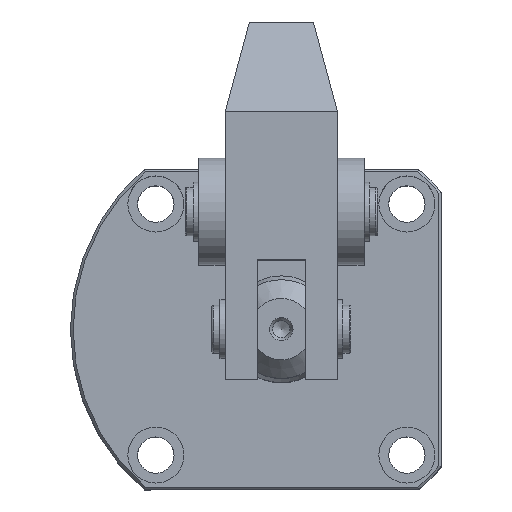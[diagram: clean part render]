
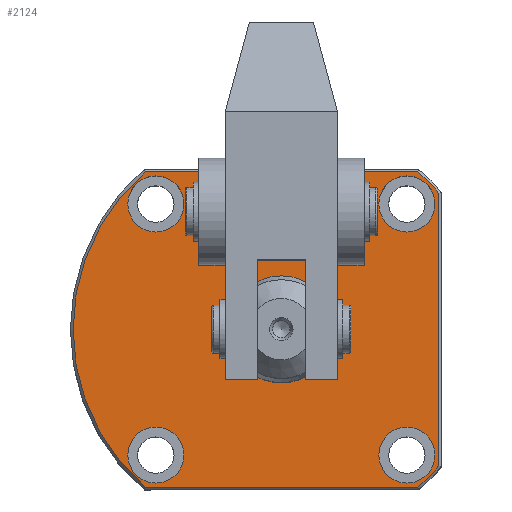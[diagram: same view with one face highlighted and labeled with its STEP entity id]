
A CAD part, top view. The second image highlights one B-rep face of the part: STEP entity #2124.
In plain terms, the highlighted planar face has unit normal (0, 0, 1).
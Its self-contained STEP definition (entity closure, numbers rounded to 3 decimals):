
#185=LINE('',#3379,#298);
#186=LINE('',#3382,#299);
#187=LINE('',#3384,#300);
#188=LINE('',#3388,#301);
#189=LINE('',#3392,#302);
#190=LINE('',#3396,#303);
#191=LINE('',#3398,#304);
#298=VECTOR('',#2670,1000.);
#299=VECTOR('',#2671,1000.);
#300=VECTOR('',#2672,1000.);
#301=VECTOR('',#2675,1000.);
#302=VECTOR('',#2678,1000.);
#303=VECTOR('',#2681,1000.);
#304=VECTOR('',#2682,1000.);
#411=ORIENTED_EDGE('',*,*,#939,.T.);
#412=ORIENTED_EDGE('',*,*,#940,.F.);
#413=ORIENTED_EDGE('',*,*,#941,.F.);
#414=ORIENTED_EDGE('',*,*,#942,.F.);
#415=ORIENTED_EDGE('',*,*,#943,.F.);
#416=ORIENTED_EDGE('',*,*,#944,.F.);
#417=ORIENTED_EDGE('',*,*,#945,.T.);
#418=ORIENTED_EDGE('',*,*,#946,.T.);
#419=ORIENTED_EDGE('',*,*,#947,.T.);
#420=ORIENTED_EDGE('',*,*,#948,.T.);
#421=ORIENTED_EDGE('',*,*,#949,.T.);
#422=ORIENTED_EDGE('',*,*,#950,.T.);
#423=ORIENTED_EDGE('',*,*,#951,.T.);
#424=ORIENTED_EDGE('',*,*,#952,.T.);
#425=ORIENTED_EDGE('',*,*,#953,.F.);
#939=EDGE_CURVE('',#1203,#1203,#1405,.T.);
#940=EDGE_CURVE('',#1204,#1204,#1406,.T.);
#941=EDGE_CURVE('',#1205,#1205,#1407,.T.);
#942=EDGE_CURVE('',#1206,#1206,#1408,.T.);
#943=EDGE_CURVE('',#1207,#1207,#1409,.T.);
#944=EDGE_CURVE('',#1208,#1209,#185,.T.);
#945=EDGE_CURVE('',#1208,#1210,#186,.T.);
#946=EDGE_CURVE('',#1210,#1211,#187,.T.);
#947=EDGE_CURVE('',#1211,#1212,#1410,.T.);
#948=EDGE_CURVE('',#1212,#1213,#188,.T.);
#949=EDGE_CURVE('',#1213,#1214,#1411,.T.);
#950=EDGE_CURVE('',#1214,#1215,#189,.T.);
#951=EDGE_CURVE('',#1215,#1216,#1412,.T.);
#952=EDGE_CURVE('',#1216,#1217,#190,.T.);
#953=EDGE_CURVE('',#1209,#1217,#191,.T.);
#1203=VERTEX_POINT('',#3370);
#1204=VERTEX_POINT('',#3372);
#1205=VERTEX_POINT('',#3374);
#1206=VERTEX_POINT('',#3376);
#1207=VERTEX_POINT('',#3378);
#1208=VERTEX_POINT('',#3380);
#1209=VERTEX_POINT('',#3381);
#1210=VERTEX_POINT('',#3383);
#1211=VERTEX_POINT('',#3385);
#1212=VERTEX_POINT('',#3387);
#1213=VERTEX_POINT('',#3389);
#1214=VERTEX_POINT('',#3391);
#1215=VERTEX_POINT('',#3393);
#1216=VERTEX_POINT('',#3395);
#1217=VERTEX_POINT('',#3397);
#1405=CIRCLE('',#2359,10.);
#1406=CIRCLE('',#2360,5.25);
#1407=CIRCLE('',#2361,5.25);
#1408=CIRCLE('',#2362,5.25);
#1409=CIRCLE('',#2363,5.25);
#1410=CIRCLE('',#2364,39.);
#1411=CIRCLE('',#2365,39.);
#1412=CIRCLE('',#2366,39.);
#1536=EDGE_LOOP('',(#411));
#1537=EDGE_LOOP('',(#412));
#1538=EDGE_LOOP('',(#413));
#1539=EDGE_LOOP('',(#414));
#1540=EDGE_LOOP('',(#415));
#1541=EDGE_LOOP('',(#416,#417,#418,#419,#420,#421,#422,#423,#424,#425));
#1791=FACE_BOUND('',#1536,.T.);
#1792=FACE_BOUND('',#1537,.T.);
#1793=FACE_BOUND('',#1538,.T.);
#1794=FACE_BOUND('',#1539,.T.);
#1795=FACE_BOUND('',#1540,.T.);
#1796=FACE_BOUND('',#1541,.T.);
#2047=PLANE('',#2358);
#2124=ADVANCED_FACE('',(#1791,#1792,#1793,#1794,#1795,#1796),#2047,.T.);
#2358=AXIS2_PLACEMENT_3D('',#3368,#2658,#2659);
#2359=AXIS2_PLACEMENT_3D('',#3369,#2660,#2661);
#2360=AXIS2_PLACEMENT_3D('',#3371,#2662,#2663);
#2361=AXIS2_PLACEMENT_3D('',#3373,#2664,#2665);
#2362=AXIS2_PLACEMENT_3D('',#3375,#2666,#2667);
#2363=AXIS2_PLACEMENT_3D('',#3377,#2668,#2669);
#2364=AXIS2_PLACEMENT_3D('',#3386,#2673,#2674);
#2365=AXIS2_PLACEMENT_3D('',#3390,#2676,#2677);
#2366=AXIS2_PLACEMENT_3D('',#3394,#2679,#2680);
#2658=DIRECTION('',(0.,0.,1.));
#2659=DIRECTION('',(0.,-1.,0.));
#2660=DIRECTION('',(0.,0.,-1.));
#2661=DIRECTION('',(0.,-1.,0.));
#2662=DIRECTION('',(0.,0.,1.));
#2663=DIRECTION('',(1.,0.,0.));
#2664=DIRECTION('',(0.,0.,1.));
#2665=DIRECTION('',(1.,0.,0.));
#2666=DIRECTION('',(0.,0.,1.));
#2667=DIRECTION('',(1.,0.,0.));
#2668=DIRECTION('',(0.,0.,1.));
#2669=DIRECTION('',(1.,0.,0.));
#2670=DIRECTION('',(1.,0.,0.));
#2671=DIRECTION('',(0.,1.,0.));
#2672=DIRECTION('',(-1.,0.,0.));
#2673=DIRECTION('',(0.,0.,1.));
#2674=DIRECTION('',(0.,-1.,0.));
#2675=DIRECTION('',(1.,0.,0.));
#2676=DIRECTION('',(0.,0.,1.));
#2677=DIRECTION('',(0.,-1.,0.));
#2678=DIRECTION('',(0.,1.,0.));
#2679=DIRECTION('',(0.,0.,1.));
#2680=DIRECTION('',(0.,-1.,0.));
#2681=DIRECTION('',(-1.,0.,0.));
#2682=DIRECTION('',(0.,1.,0.));
#3368=CARTESIAN_POINT('',(-9.,30.5,19.5));
#3369=CARTESIAN_POINT('',(-9.,30.5,19.5));
#3370=CARTESIAN_POINT('',(-9.,20.5,19.5));
#3371=CARTESIAN_POINT('',(14.5,7.,19.5));
#3372=CARTESIAN_POINT('',(19.75,7.,19.5));
#3373=CARTESIAN_POINT('',(-32.5,7.,19.5));
#3374=CARTESIAN_POINT('',(-27.25,7.,19.5));
#3375=CARTESIAN_POINT('',(-32.5,54.,19.5));
#3376=CARTESIAN_POINT('',(-27.25,54.,19.5));
#3377=CARTESIAN_POINT('',(14.5,54.,19.5));
#3378=CARTESIAN_POINT('',(19.75,54.,19.5));
#3379=CARTESIAN_POINT('',(-19.5,43.5,19.5));
#3380=CARTESIAN_POINT('',(-19.5,43.5,19.5));
#3381=CARTESIAN_POINT('',(1.5,43.5,19.5));
#3382=CARTESIAN_POINT('',(-19.5,43.5,19.5));
#3383=CARTESIAN_POINT('',(-19.5,60.,19.5));
#3384=CARTESIAN_POINT('',(-9.,60.,19.5));
#3385=CARTESIAN_POINT('',(-34.51,60.,19.5));
#3386=CARTESIAN_POINT('',(-9.,30.5,19.5));
#3387=CARTESIAN_POINT('',(-34.51,1.,19.5));
#3388=CARTESIAN_POINT('',(-9.,1.,19.5));
#3389=CARTESIAN_POINT('',(16.51,1.,19.5));
#3390=CARTESIAN_POINT('',(-9.,30.5,19.5));
#3391=CARTESIAN_POINT('',(20.5,4.99,19.5));
#3392=CARTESIAN_POINT('',(20.5,30.5,19.5));
#3393=CARTESIAN_POINT('',(20.5,56.01,19.5));
#3394=CARTESIAN_POINT('',(-9.,30.5,19.5));
#3395=CARTESIAN_POINT('',(16.51,60.,19.5));
#3396=CARTESIAN_POINT('',(-9.,60.,19.5));
#3397=CARTESIAN_POINT('',(1.5,60.,19.5));
#3398=CARTESIAN_POINT('',(1.5,43.5,19.5));
